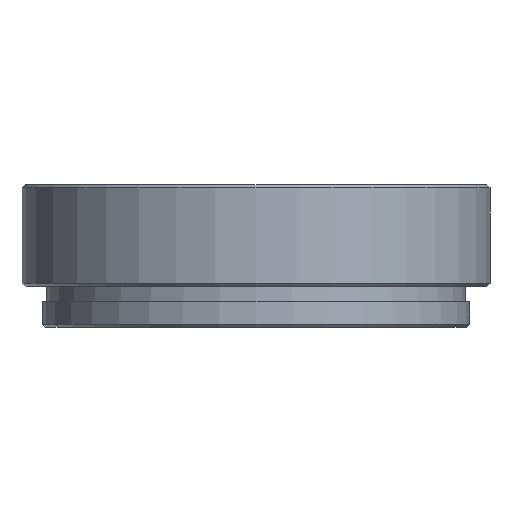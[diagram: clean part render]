
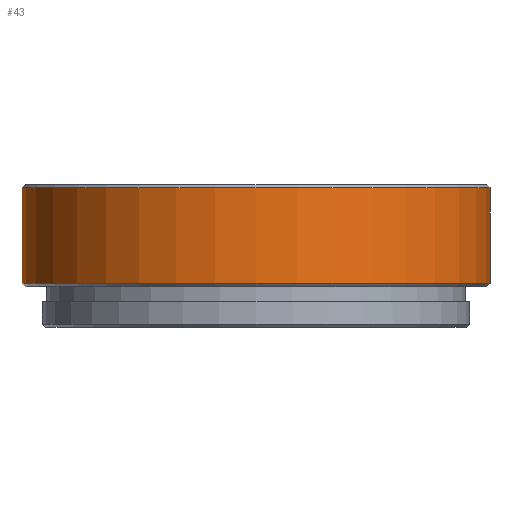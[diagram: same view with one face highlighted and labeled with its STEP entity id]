
A CAD part, front view. The second image highlights one B-rep face of the part: STEP entity #43.
In plain terms, the highlighted cylindrical face has radius 23 mm (diameter 46 mm), a partial arc.
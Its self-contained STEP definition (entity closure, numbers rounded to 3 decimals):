
#43 = ADVANCED_FACE ( 'NONE', ( #626 ), #800, .T. ) ;
#45 = ORIENTED_EDGE ( 'NONE', *, *, #518, .T. ) ;
#64 = CARTESIAN_POINT ( 'NONE',  ( 0., 0., -5.2 ) ) ;
#84 = AXIS2_PLACEMENT_3D ( 'NONE', #64, #585, #142 ) ;
#98 = DIRECTION ( 'NONE',  ( 0., 0., 1. ) ) ;
#103 = VERTEX_POINT ( 'NONE', #830 ) ;
#106 = DIRECTION ( 'NONE',  ( 0., 0., 1. ) ) ;
#109 = EDGE_CURVE ( 'NONE', #893, #233, #384, .T. ) ;
#110 = AXIS2_PLACEMENT_3D ( 'NONE', #159, #676, #598 ) ;
#142 = DIRECTION ( 'NONE',  ( 1., 0., 0. ) ) ;
#159 = CARTESIAN_POINT ( 'NONE',  ( 0., 0., 30.465 ) ) ;
#213 = LINE ( 'NONE', #256, #312 ) ;
#233 = VERTEX_POINT ( 'NONE', #327 ) ;
#253 = EDGE_CURVE ( 'NONE', #522, #103, #213, .T. ) ;
#256 = CARTESIAN_POINT ( 'NONE',  ( 23., 0., 30.465 ) ) ;
#275 = CARTESIAN_POINT ( 'NONE',  ( 0., 0., 4.2 ) ) ;
#300 = EDGE_LOOP ( 'NONE', ( #641, #45, #543, #435 ) ) ;
#302 = AXIS2_PLACEMENT_3D ( 'NONE', #275, #794, #354 ) ;
#312 = VECTOR ( 'NONE', #106, 1000. ) ;
#327 = CARTESIAN_POINT ( 'NONE',  ( -23., 0., 4.2 ) ) ;
#354 = DIRECTION ( 'NONE',  ( -1., 0., 0. ) ) ;
#384 = LINE ( 'NONE', #618, #749 ) ;
#413 = EDGE_CURVE ( 'NONE', #103, #233, #420, .T. ) ;
#420 = CIRCLE ( 'NONE', #302, 23. ) ;
#435 = ORIENTED_EDGE ( 'NONE', *, *, #413, .T. ) ;
#507 = CARTESIAN_POINT ( 'NONE',  ( 23., 0., -5.2 ) ) ;
#516 = CIRCLE ( 'NONE', #84, 23. ) ;
#518 = EDGE_CURVE ( 'NONE', #893, #522, #516, .T. ) ;
#522 = VERTEX_POINT ( 'NONE', #507 ) ;
#543 = ORIENTED_EDGE ( 'NONE', *, *, #253, .T. ) ;
#550 = CARTESIAN_POINT ( 'NONE',  ( -23., 0., -5.2 ) ) ;
#585 = DIRECTION ( 'NONE',  ( 0., 0., 1. ) ) ;
#598 = DIRECTION ( 'NONE',  ( 1., 0., 0. ) ) ;
#618 = CARTESIAN_POINT ( 'NONE',  ( -23., 0., 30.465 ) ) ;
#626 = FACE_OUTER_BOUND ( 'NONE', #300, .T. ) ;
#641 = ORIENTED_EDGE ( 'NONE', *, *, #109, .F. ) ;
#676 = DIRECTION ( 'NONE',  ( 0., 0., 1. ) ) ;
#749 = VECTOR ( 'NONE', #98, 1000. ) ;
#794 = DIRECTION ( 'NONE',  ( 0., 0., -1. ) ) ;
#800 = CYLINDRICAL_SURFACE ( 'NONE', #110, 23. ) ;
#830 = CARTESIAN_POINT ( 'NONE',  ( 23., 0., 4.2 ) ) ;
#893 = VERTEX_POINT ( 'NONE', #550 ) ;
